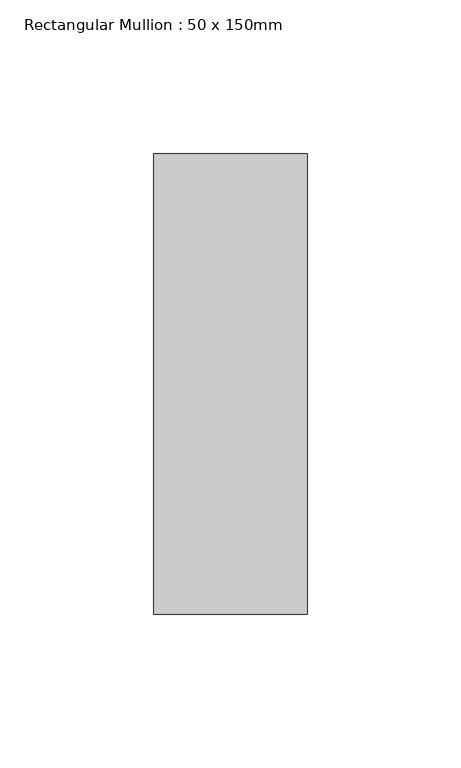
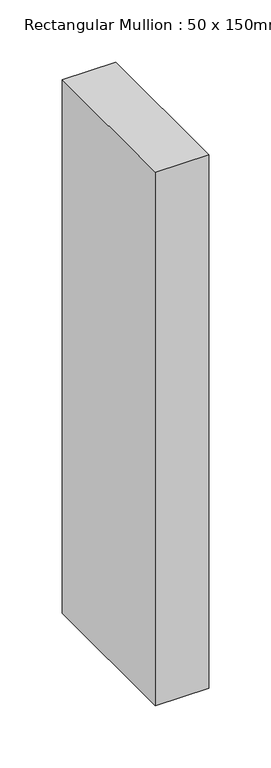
"""IFC4 building model written with IfcOpenShell, lengths in millimetres: member geometry, Rectangular Mullion : 50 x 150mm."""

from ifc_helpers import new_model, si_unit, frame, origin, place, context, project, spatial, polyline, outline, extrude, source, transform, mapped, element, save


def rectangular_mullion_50_x_150mm_8ce7235b(model_context):
    return source(origin(), model_context, "Body", "SweptSolid", [
        extrude(outline(polyline([(25.0, 75.0), (25.0, -75.0), (-25.0, -75.0), (-25.0, 75.0), (25.0, 75.0)])), frame((0.0, 0.0, -525.0000002), z_axis=(0.0, 0.0, 1.0), x_axis=(1.0, 0.0, 0.0)), (0.0, 0.0, 1.0), 525.0000002),
    ])


if __name__ == "__main__":
    model = new_model("IFC4")
    model_context = context("Model", 3, world=origin())
    ifc_project = project(units=[si_unit("LENGTHUNIT", "METRE", prefix="MILLI")], contexts=[model_context])
    site = spatial("IfcSite", under=ifc_project)
    building = spatial("IfcBuilding", under=site)
    placement = place(None, origin())
    rectangular_mullion_50_x_150mm_shape = rectangular_mullion_50_x_150mm_8ce7235b(model_context)
    element("IfcMember", 1, ObjectType="Rectangular Mullion : 50 x 150mm", at=placement, inside=building, context=model_context, shape_type="MappedRepresentation", body=[
        mapped(rectangular_mullion_50_x_150mm_shape, transform((0.0, 0.0, 0.0), x_axis=(1.0, 0.0, 0.0), y_axis=(0.0, 1.0, 0.0), z_axis=(0.0, 0.0, 1.0))),
    ])
    save(model, "model.ifc")
